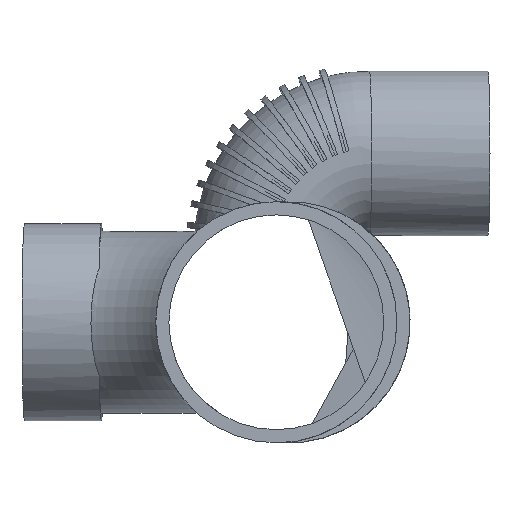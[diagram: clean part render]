
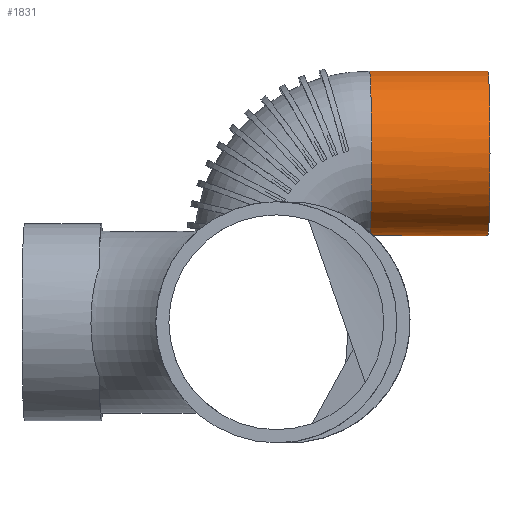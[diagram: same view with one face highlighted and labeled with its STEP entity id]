
A CAD part, front view. The second image highlights one B-rep face of the part: STEP entity #1831.
In plain terms, the highlighted cylindrical face has radius 37.5 mm (diameter 75 mm), a full revolution.
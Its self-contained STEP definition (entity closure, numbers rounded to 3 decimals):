
#286=FACE_OUTER_BOUND($,#595,.T.);
#364=CIRCLE($,#1966,37.5);
#406=CIRCLE($,#2065,37.5);
#446=FACE_BOUND($,#596,.T.);
#595=EDGE_LOOP($,(#1536));
#596=EDGE_LOOP($,(#1537));
#777=VERTEX_POINT($,#3511);
#815=VERTEX_POINT($,#3688);
#970=EDGE_CURVE($,#777,#777,#364,.T.);
#1049=EDGE_CURVE($,#815,#815,#406,.T.);
#1536=ORIENTED_EDGE($,*,*,#970,.T.);
#1537=ORIENTED_EDGE($,*,*,#1049,.T.);
#1598=CYLINDRICAL_SURFACE($,#2064,37.5);
#1831=ADVANCED_FACE($,(#286,#446),#1598,.T.);
#1966=AXIS2_PLACEMENT_3D($,#3512,#2343,#2344);
#2064=AXIS2_PLACEMENT_3D($,#3687,#2575,#2576);
#2065=AXIS2_PLACEMENT_3D($,#3689,#2577,#2578);
#2343=DIRECTION('center_axis',(1.,0.026,0.));
#2344=DIRECTION('ref_axis',(0.026,-1.,0.));
#2575=DIRECTION('center_axis',(-1.,-0.026,0.));
#2576=DIRECTION('ref_axis',(0.026,-1.,0.));
#2577=DIRECTION('center_axis',(-1.,-0.026,0.));
#2578=DIRECTION('ref_axis',(0.026,-1.,0.));
#3511=CARTESIAN_POINT('',(41.504,166.6,77.));
#3512=CARTESIAN_POINT('Origin',(42.485,129.113,77.));
#3687=CARTESIAN_POINT('Origin',(96.485,130.527,77.));
#3688=CARTESIAN_POINT('',(95.504,168.014,77.));
#3689=CARTESIAN_POINT('Origin',(96.485,130.527,77.));
